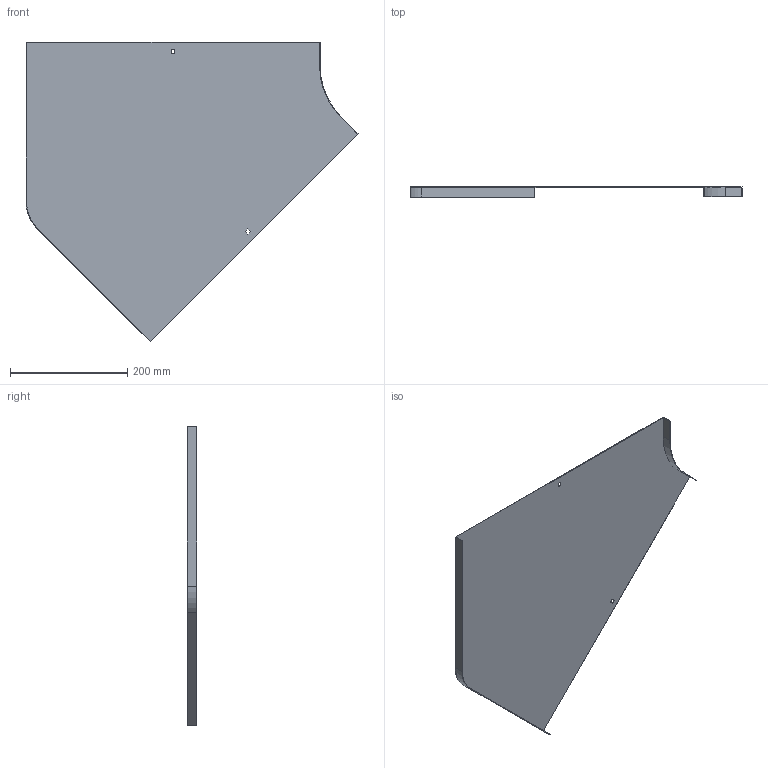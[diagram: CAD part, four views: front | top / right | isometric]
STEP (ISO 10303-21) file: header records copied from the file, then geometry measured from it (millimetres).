
FILE_DESCRIPTION (( 'STEP AP214' ), '1' );
FILE_NAME ('OP4_500.step', '2025-07-16T09:14:34', ( '' ), ( '' ), 'SwSTEP 2.0', 'SolidWorks 2023', '' );
FILE_SCHEMA (( 'AUTOMOTIVE_DESIGN' ));
Length unit declared in the file: millimetre
Products named in the file (1): OP4_500
Bounding box: 566.6 x 17 x 510.93 mm (x, y, z)
Volume: 208643.5 mm3; surface area: 419180.3 mm2
Topology: 1 solids, 1 shells, 26 faces, 72 edges, 48 vertices
Faces by surface type: plane 22, cylinder 4
Entity records: 855 total; most frequent: CARTESIAN_POINT 147, ORIENTED_EDGE 144, DIRECTION 134, EDGE_CURVE 72, LINE 64, VECTOR 64, VERTEX_POINT 48, AXIS2_PLACEMENT_3D 35
